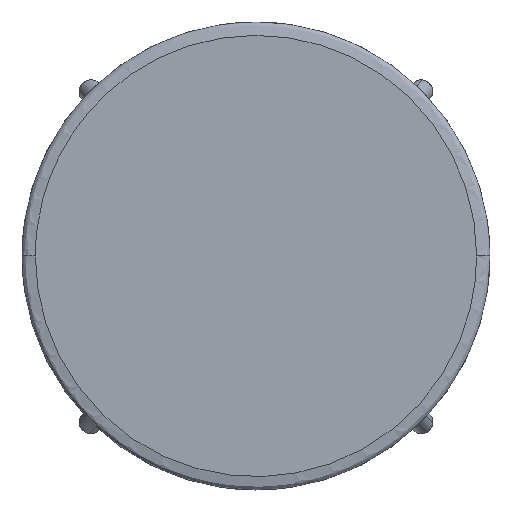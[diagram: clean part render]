
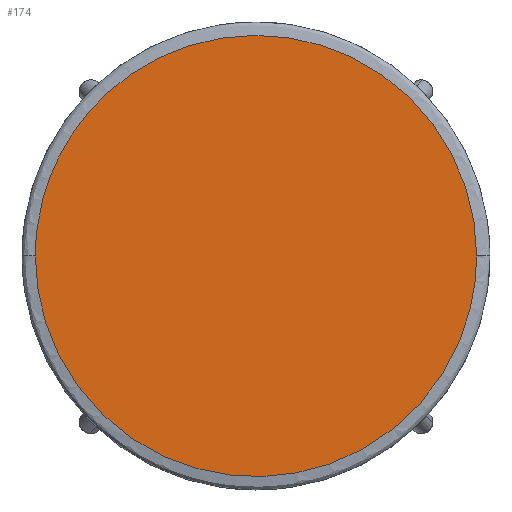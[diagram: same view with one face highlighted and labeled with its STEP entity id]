
A CAD part, top view. The second image highlights one B-rep face of the part: STEP entity #174.
In plain terms, the highlighted planar face has unit normal (0, 0, 1).
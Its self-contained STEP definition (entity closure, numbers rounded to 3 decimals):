
#174=ADVANCED_FACE('',(#330),#1957,.T.);
#330=FACE_OUTER_BOUND('',#492,.T.);
#492=EDGE_LOOP('',(#974,#975));
#974=ORIENTED_EDGE('',*,*,#1364,.T.);
#975=ORIENTED_EDGE('',*,*,#1363,.T.);
#1363=EDGE_CURVE('',#1875,#1874,#1593,.T.);
#1364=EDGE_CURVE('',#1874,#1875,#1594,.T.);
#1593=(
BOUNDED_CURVE()
B_SPLINE_CURVE(3,(#10052,#10053,#10054,#10055),.UNSPECIFIED.,.F.,.F.)
B_SPLINE_CURVE_WITH_KNOTS((4,4),(-1036.726,0.),.UNSPECIFIED.)
CURVE()
GEOMETRIC_REPRESENTATION_ITEM()
RATIONAL_B_SPLINE_CURVE((1.,0.333,0.333,1.))
REPRESENTATION_ITEM('')
);
#1594=(
BOUNDED_CURVE()
B_SPLINE_CURVE(2,(#10056,#10057,#10058,#10059,#10060),.UNSPECIFIED.,.F.,
 .F.)
B_SPLINE_CURVE_WITH_KNOTS((3,2,3),(-1036.726,-518.363,
0.),.UNSPECIFIED.)
CURVE()
GEOMETRIC_REPRESENTATION_ITEM()
RATIONAL_B_SPLINE_CURVE((1.,0.707,1.,0.707,1.))
REPRESENTATION_ITEM('')
);
#1874=VERTEX_POINT('',#9991);
#1875=VERTEX_POINT('',#9992);
#1957=PLANE('',#2133);
#2133=AXIS2_PLACEMENT_3D('',#9990,#2164,$);
#2164=DIRECTION('',(0.,0.,1.));
#9990=CARTESIAN_POINT('',(-396.001,396.001,700.));
#9991=CARTESIAN_POINT('',(-330.,0.,700.));
#9992=CARTESIAN_POINT('',(330.,0.,700.));
#10052=CARTESIAN_POINT('',(330.,0.,700.));
#10053=CARTESIAN_POINT('',(330.,660.,700.));
#10054=CARTESIAN_POINT('',(-330.,660.,700.));
#10055=CARTESIAN_POINT('',(-330.,0.,700.));
#10056=CARTESIAN_POINT('',(-330.,0.,700.));
#10057=CARTESIAN_POINT('',(-330.,-330.,700.));
#10058=CARTESIAN_POINT('',(0.,-330.,700.));
#10059=CARTESIAN_POINT('',(330.,-330.,700.));
#10060=CARTESIAN_POINT('',(330.,0.,700.));
